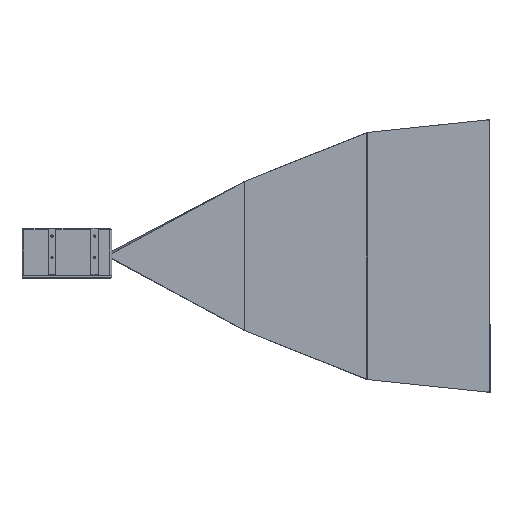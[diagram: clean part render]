
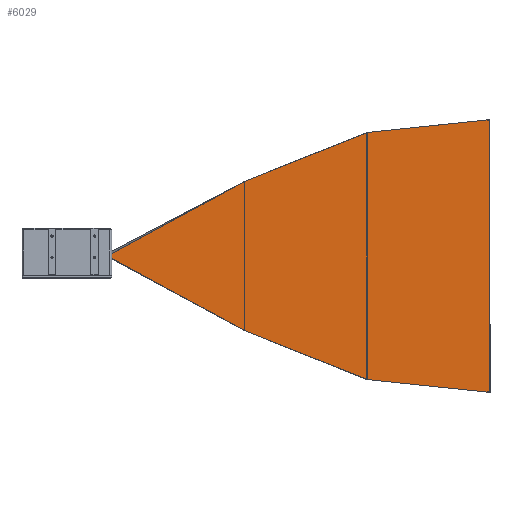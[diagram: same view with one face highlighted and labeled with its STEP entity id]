
A CAD part, left-side view. The second image highlights one B-rep face of the part: STEP entity #6029.
In plain terms, the highlighted planar face has unit normal (-1, 0, 0).
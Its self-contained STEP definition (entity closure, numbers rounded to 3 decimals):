
#18 = CARTESIAN_POINT ( 'NONE',  ( 21.6, 10.748, 19.776 ) ) ;
#99 = VERTEX_POINT ( 'NONE', #7521 ) ;
#1639 = ORIENTED_EDGE ( 'NONE', *, *, #16161, .T. ) ;
#2140 = PLANE ( 'NONE',  #25452 ) ;
#2458 = CARTESIAN_POINT ( 'NONE',  ( 21.6, 0., 0. ) ) ;
#2861 = CARTESIAN_POINT ( 'NONE',  ( 21.6, 5., 22.9 ) ) ;
#4545 = VECTOR ( 'NONE', #15988, 1000. ) ;
#4565 = DIRECTION ( 'NONE',  ( 0., -0.929, 0.371 ) ) ;
#4624 = DIRECTION ( 'NONE',  ( 0., -0.995, 0.104 ) ) ;
#4998 = CARTESIAN_POINT ( 'NONE',  ( 21.6, -8.468, 15.581 ) ) ;
#5060 = VERTEX_POINT ( 'NONE', #19241 ) ;
#5549 = EDGE_CURVE ( 'NONE', #29994, #5060, #24154, .T. ) ;
#5810 = VERTEX_POINT ( 'NONE', #31755 ) ;
#6029 = ADVANCED_FACE ( 'NONE', ( #24433 ), #2140, .T. ) ;
#6058 = ORIENTED_EDGE ( 'NONE', *, *, #15390, .F. ) ;
#7118 = CARTESIAN_POINT ( 'NONE',  ( 21.6, 9.362, -89.875 ) ) ;
#7269 = CARTESIAN_POINT ( 'NONE',  ( 21.6, -300., 167.9 ) ) ;
#7521 = CARTESIAN_POINT ( 'NONE',  ( 21.6, -156., 110.4 ) ) ;
#9632 = DIRECTION ( 'NONE',  ( -1., 0., 0. ) ) ;
#10463 = LINE ( 'NONE', #25910, #4545 ) ;
#10651 = CARTESIAN_POINT ( 'NONE',  ( 21.6, -156., -64.6 ) ) ;
#14230 = CARTESIAN_POINT ( 'NONE',  ( 21.6, 14.082, 135.183 ) ) ;
#14501 = VECTOR ( 'NONE', #17275, 1000. ) ;
#14943 = EDGE_CURVE ( 'NONE', #15083, #28573, #19451, .T. ) ;
#15083 = VERTEX_POINT ( 'NONE', #10651 ) ;
#15390 = EDGE_CURVE ( 'NONE', #99, #29994, #19381, .T. ) ;
#15988 = DIRECTION ( 'NONE',  ( 0., 0., 1. ) ) ;
#16161 = EDGE_CURVE ( 'NONE', #5810, #5060, #10463, .T. ) ;
#16903 = DIRECTION ( 'NONE',  ( 0., -0.995, -0.104 ) ) ;
#16916 = ORIENTED_EDGE ( 'NONE', *, *, #5549, .F. ) ;
#17275 = DIRECTION ( 'NONE',  ( 0., -0.879, 0.478 ) ) ;
#17652 = DIRECTION ( 'NONE',  ( 0., -0.929, -0.371 ) ) ;
#18143 = EDGE_CURVE ( 'NONE', #23115, #99, #27521, .T. ) ;
#19241 = CARTESIAN_POINT ( 'NONE',  ( 21.6, -444., 182.9 ) ) ;
#19381 = LINE ( 'NONE', #27019, #27371 ) ;
#19451 = LINE ( 'NONE', #29372, #25305 ) ;
#19555 = DIRECTION ( 'NONE',  ( 0., -1., 0. ) ) ;
#21061 = CARTESIAN_POINT ( 'NONE',  ( 21.6, -300., -122.1 ) ) ;
#21658 = VECTOR ( 'NONE', #16903, 1000. ) ;
#21765 = VECTOR ( 'NONE', #4624, 1000. ) ;
#22101 = LINE ( 'NONE', #4998, #27770 ) ;
#23115 = VERTEX_POINT ( 'NONE', #2861 ) ;
#23851 = ORIENTED_EDGE ( 'NONE', *, *, #31821, .T. ) ;
#24154 = LINE ( 'NONE', #14230, #21765 ) ;
#24383 = LINE ( 'NONE', #7118, #21658 ) ;
#24385 = DIRECTION ( 'NONE',  ( 0., -0.879, -0.478 ) ) ;
#24433 = FACE_OUTER_BOUND ( 'NONE', #27213, .T. ) ;
#25305 = VECTOR ( 'NONE', #17652, 1000. ) ;
#25452 = AXIS2_PLACEMENT_3D ( 'NONE', #2458, #9632, #19555 ) ;
#25910 = CARTESIAN_POINT ( 'NONE',  ( 21.6, -444., 0. ) ) ;
#26409 = ORIENTED_EDGE ( 'NONE', *, *, #14943, .T. ) ;
#26763 = ORIENTED_EDGE ( 'NONE', *, *, #18143, .F. ) ;
#27019 = CARTESIAN_POINT ( 'NONE',  ( 21.6, 16.568, 41.493 ) ) ;
#27122 = EDGE_CURVE ( 'NONE', #28573, #5810, #24383, .T. ) ;
#27213 = EDGE_LOOP ( 'NONE', ( #26763, #23851, #26409, #30804, #1639, #16916, #6058 ) ) ;
#27371 = VECTOR ( 'NONE', #4565, 1000. ) ;
#27521 = LINE ( 'NONE', #18, #14501 ) ;
#27770 = VECTOR ( 'NONE', #24385, 1000. ) ;
#28573 = VERTEX_POINT ( 'NONE', #21061 ) ;
#29372 = CARTESIAN_POINT ( 'NONE',  ( 21.6, 0.795, -1.991 ) ) ;
#29994 = VERTEX_POINT ( 'NONE', #7269 ) ;
#30804 = ORIENTED_EDGE ( 'NONE', *, *, #27122, .T. ) ;
#31755 = CARTESIAN_POINT ( 'NONE',  ( 21.6, -444., -137.1 ) ) ;
#31821 = EDGE_CURVE ( 'NONE', #23115, #15083, #22101, .T. ) ;
